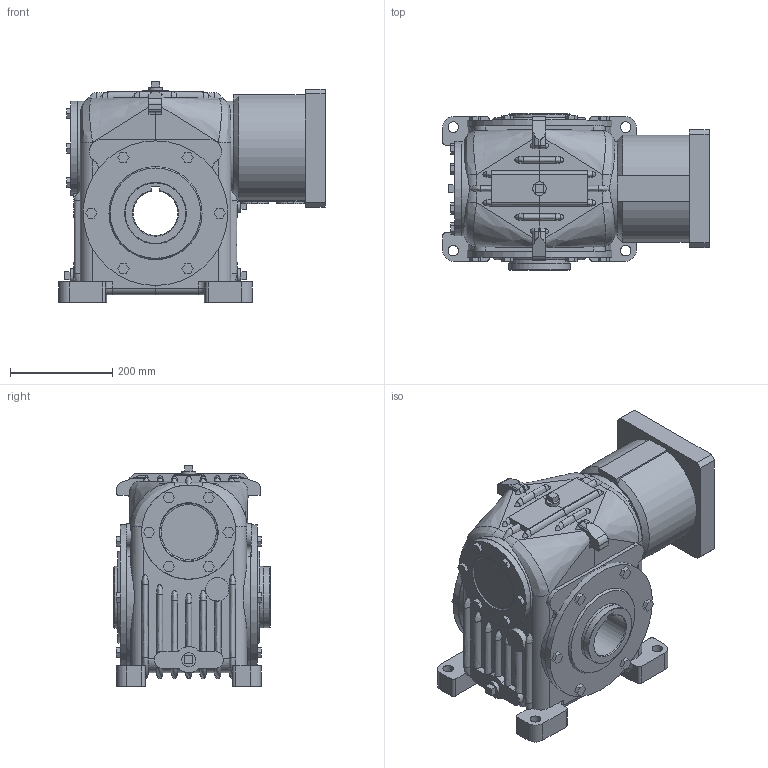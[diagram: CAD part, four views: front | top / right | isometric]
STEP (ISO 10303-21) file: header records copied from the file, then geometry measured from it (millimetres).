
FILE_DESCRIPTION(/* description */ ('Unknown'),/* implementation_level */ '2;1');
FILE_NAME(/* name */ 'O50CT-1-Q01NBD-',/* time_stamp */ '2024-11-21T11:25:14-05:00',/* author */ ('Unknown'),/* organization */ ('Unknown'),/* preprocessor_version */ 'ST-DEVELOPER v19.4',/* originating_system */ 'Solid Edge',/* authorisation */ 'Unknown');
FILE_SCHEMA (('AUTOMOTIVE_DESIGN {1 0 10303 214 3 1 1}'));
Length unit declared in the file: millimetre
Products named in the file (8): O50CT-1-Q01NBD-; 50-1-CP; 50-OUTHS-3437; 50-OUTH-3437; 50-WCAP; 50-SM20-CP; MP4Q-01-CP; KM400-N-32
Assembly tree (7 placements, depth 2):
  O50CT-1-Q01NBD-
    50-1-CP
    50-OUTHS-3437
    50-OUTH-3437
    50-WCAP
    50-SM20-CP
    MP4Q-01-CP
    KM400-N-32
Bounding box: 520.51 x 304.8 x 431.74 mm (x, y, z)
Volume: 30999709.5 mm3; surface area: 1755013.5 mm2
Topology: 7 solids, 7 shells, 654 faces, 1666 edges, 1099 vertices
Faces by surface type: plane 376, cylinder 156, bspline 103, cone 14, torus 5
Full cylindrical faces by diameter (mm): 0.254 x7, 8.376 x4, 12.7 x8, 19.05 x6, 20.637 x4, 26.924 x4, 38.087 x1, 38.1 x1, 39.688 x1, 45.72 x2, 94 x1, 98.425 x1, 120.015 x3, 120.48 x2, 120.65 x1, 120.988 x1, 121.158 x1, 122 x1, 127 x1, 127.508 x1, 130 x1, 139 x1, 161.925 x1, 184.15 x3, 193.675 x1, 199.998 x1, 200 x1, 282.575 x2
Entity records: 30449 total; most frequent: CARTESIAN_POINT 13988, ORIENTED_EDGE 3134, DIRECTION 2732, EDGE_CURVE 1567, VERTEX_POINT 1078, AXIS2_PLACEMENT_3D 934, LINE 864, VECTOR 864
